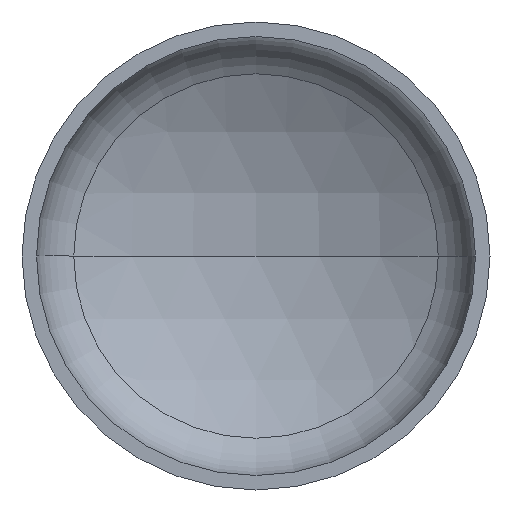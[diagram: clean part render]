
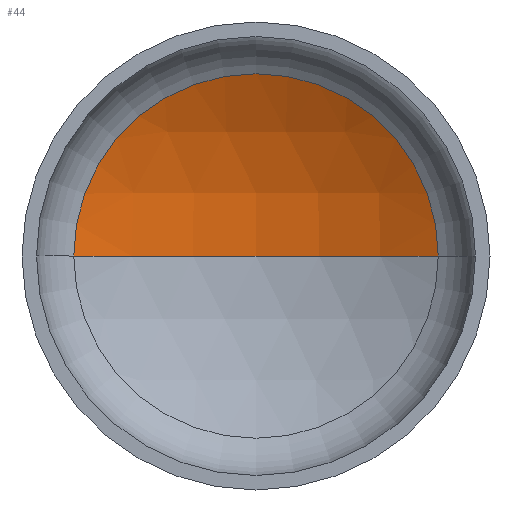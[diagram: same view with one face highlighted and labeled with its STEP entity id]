
A CAD part, front view. The second image highlights one B-rep face of the part: STEP entity #44.
In plain terms, the highlighted spherical face has radius 800 mm.
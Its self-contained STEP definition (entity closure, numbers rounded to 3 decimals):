
#5 = AXIS2_PLACEMENT_3D ( 'NONE', #218, #220, #392 ) ;
#7 = AXIS2_PLACEMENT_3D ( 'NONE', #209, #86, #335 ) ;
#23 = EDGE_LOOP ( 'NONE', ( #54, #106, #51 ) ) ;
#44 = ADVANCED_FACE ( 'NONE', ( #146 ), #384, .F. ) ;
#51 = ORIENTED_EDGE ( 'NONE', *, *, #373, .T. ) ;
#54 = ORIENTED_EDGE ( 'NONE', *, *, #352, .F. ) ;
#60 = AXIS2_PLACEMENT_3D ( 'NONE', #349, #268, #269 ) ;
#70 = VERTEX_POINT ( 'NONE', #225 ) ;
#86 = DIRECTION ( 'NONE',  ( 0., 0., 1. ) ) ;
#106 = ORIENTED_EDGE ( 'NONE', *, *, #369, .T. ) ;
#124 = CIRCLE ( 'NONE', #7, 800. ) ;
#126 = VERTEX_POINT ( 'NONE', #274 ) ;
#146 = FACE_OUTER_BOUND ( 'NONE', #23, .T. ) ;
#162 = DIRECTION ( 'NONE',  ( 0., -1., 0. ) ) ;
#163 = DIRECTION ( 'NONE',  ( 1., 0., 0. ) ) ;
#197 = VERTEX_POINT ( 'NONE', #232 ) ;
#209 = CARTESIAN_POINT ( 'NONE',  ( 0., -463.408, 0. ) ) ;
#218 = CARTESIAN_POINT ( 'NONE',  ( 0., -463.408, 0. ) ) ;
#220 = DIRECTION ( 'NONE',  ( 0., 0., -1. ) ) ;
#225 = CARTESIAN_POINT ( 'NONE',  ( 389.457, 235.393, 0. ) ) ;
#232 = CARTESIAN_POINT ( 'NONE',  ( 0., 336.592, 0. ) ) ;
#244 = AXIS2_PLACEMENT_3D ( 'NONE', #314, #162, #163 ) ;
#245 = CIRCLE ( 'NONE', #5, 800. ) ;
#268 = DIRECTION ( 'NONE',  ( 0., 0., -1. ) ) ;
#269 = DIRECTION ( 'NONE',  ( -1., 0., 0. ) ) ;
#274 = CARTESIAN_POINT ( 'NONE',  ( -389.457, 235.393, 0. ) ) ;
#314 = CARTESIAN_POINT ( 'NONE',  ( 0., 235.393, 0. ) ) ;
#316 = CIRCLE ( 'NONE', #244, 389.457 ) ;
#335 = DIRECTION ( 'NONE',  ( 1., 0., 0. ) ) ;
#349 = CARTESIAN_POINT ( 'NONE',  ( 0., -463.408, 0. ) ) ;
#352 = EDGE_CURVE ( 'NONE', #197, #126, #124, .T. ) ;
#369 = EDGE_CURVE ( 'NONE', #197, #70, #245, .T. ) ;
#373 = EDGE_CURVE ( 'NONE', #70, #126, #316, .T. ) ;
#384 = SPHERICAL_SURFACE ( 'NONE', #60, 800. ) ;
#392 = DIRECTION ( 'NONE',  ( -1., 0., 0. ) ) ;
